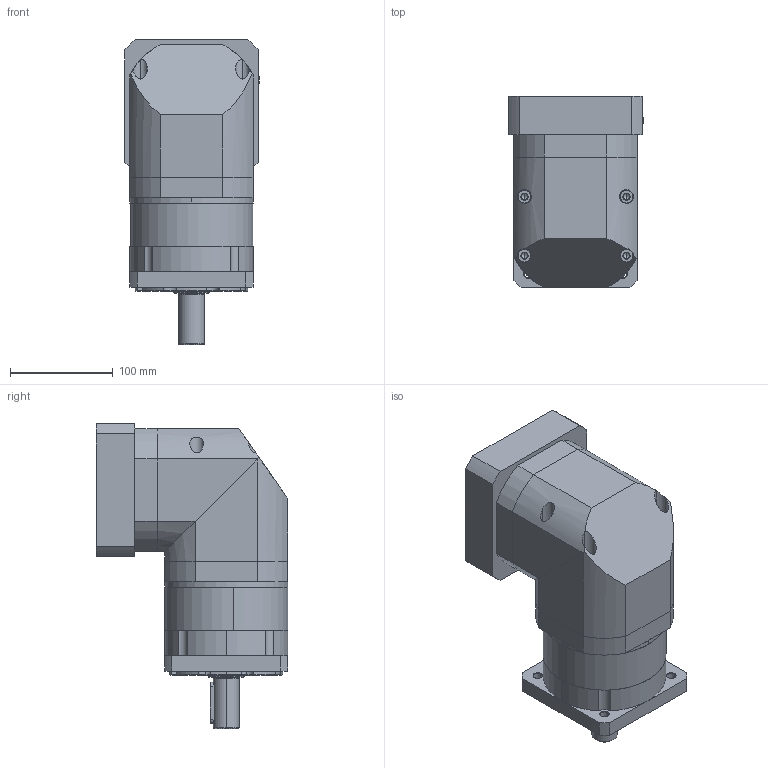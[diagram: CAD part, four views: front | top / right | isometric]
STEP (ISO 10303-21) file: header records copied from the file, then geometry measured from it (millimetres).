
FILE_DESCRIPTION (( 'STEP AP203' ), '1' );
FILE_NAME ('LSFR120-(L1)-S2-P2-110145M8.STEP', '2024-11-14T09:41:47', ( '微软用户' ), ( '微软中国' ), 'SwSTEP 2.0', 'SolidWorks 2022', '' );
FILE_SCHEMA (( 'CONFIG_CONTROL_DESIGN' ));
Length unit declared in the file: millimetre
Products named in the file (1): LSFR120-(L1)-S2-P2-110145M8
Bounding box: 131 x 186.75 x 297.5 mm (x, y, z)
Volume: 3601085.3 mm3; surface area: 362147.8 mm2
Topology: 23 solids, 23 shells, 831 faces, 1818 edges, 1044 vertices
Faces by surface type: plane 334, cylinder 246, cone 211, torus 40
Entity records: 23691 total; most frequent: CARTESIAN_POINT 5408, DIRECTION 4089, ORIENTED_EDGE 3544, EDGE_CURVE 1772, AXIS2_PLACEMENT_3D 1668, VERTEX_POINT 1044, EDGE_LOOP 934, CIRCLE 836
